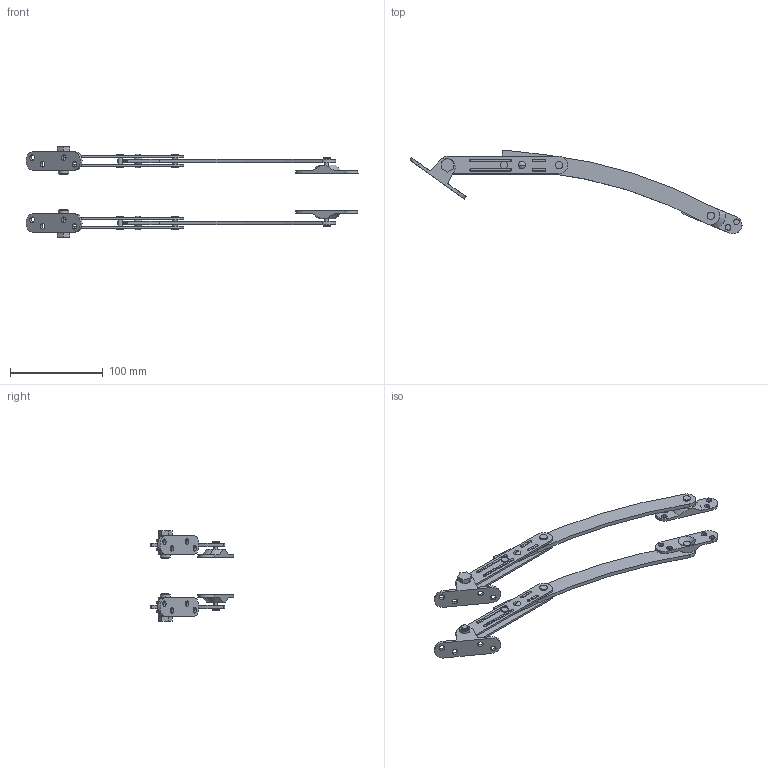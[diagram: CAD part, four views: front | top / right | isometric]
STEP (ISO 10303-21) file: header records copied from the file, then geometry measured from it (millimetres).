
FILE_DESCRIPTION (( 'STEP AP214' ), '1' );
FILE_NAME ('KD-225 L+R.STEP', '2016-06-14T06:15:00', ( '' ), ( '' ), 'SwSTEP 2.0', 'SolidWorks 2011', '' );
FILE_SCHEMA (( 'AUTOMOTIVE_DESIGN' ));
Length unit declared in the file: millimetre
Products named in the file (8): PIN; NET; hexagon head bolt (grade a)_ks(KS 1002 A - M8 x 25 x 25-N); 04. BOARD BRACKET; 03. DOOR BRACKET; 02. FOREARM; 01. UPPER ARM; KD-225 L+R
Assembly tree (20 placements, depth 2):
  KD-225 L+R
    PIN  x6
    02. FOREARM  x2
    NET  x2
    03. DOOR BRACKET  x2
    01. UPPER ARM  x4
    04. BOARD BRACKET  x2
    hexagon head bolt (grade a)_ks(KS 1002 A - M8 x 25 x 25-N)  x2
Bounding box: 357.34 x 89.97 x 97.4 mm (x, y, z)
Volume: 84364.8 mm3; surface area: 67311.3 mm2
Topology: 20 solids, 20 shells, 406 faces, 980 edges, 652 vertices
Faces by surface type: cylinder 188, plane 132, torus 52, sphere 20, cone 14
Entity records: 4853 total; most frequent: DIRECTION 859, CARTESIAN_POINT 802, ORIENTED_EDGE 698, AXIS2_PLACEMENT_3D 349, EDGE_CURVE 349, VERTEX_POINT 232, EDGE_LOOP 187, CIRCLE 184
